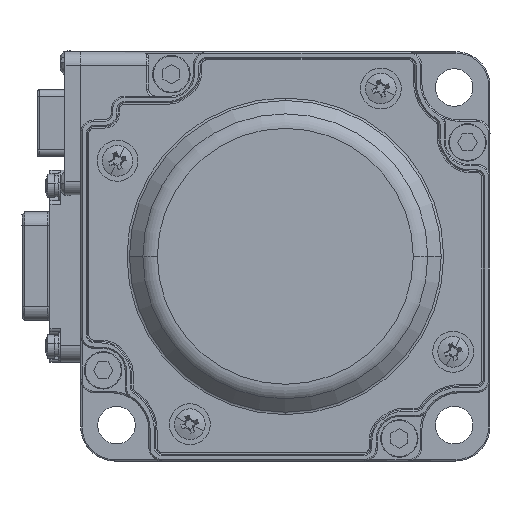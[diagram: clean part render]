
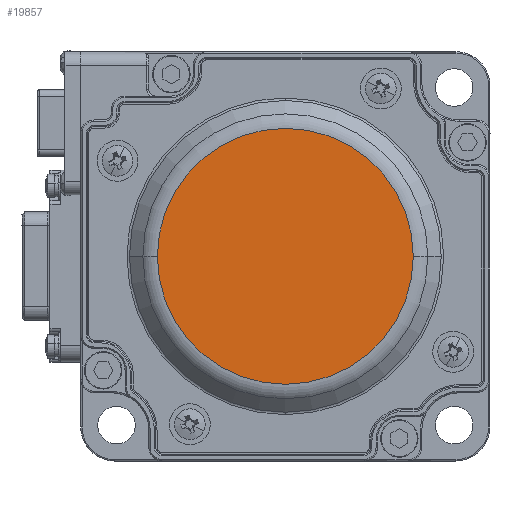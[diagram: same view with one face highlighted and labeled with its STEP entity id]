
A CAD part, left-side view. The second image highlights one B-rep face of the part: STEP entity #19857.
In plain terms, the highlighted planar face has unit normal (-1, 0, 0).
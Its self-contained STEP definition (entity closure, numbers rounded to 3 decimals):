
#668 = DIRECTION ( 'NONE',  ( -1., 0., 0. ) ) ;
#2427 = CARTESIAN_POINT ( 'NONE',  ( -117.051, -57.145, 157.079 ) ) ;
#2893 = DIRECTION ( 'NONE',  ( -1., 0., 0. ) ) ;
#3813 = CIRCLE ( 'NONE', #27198, 18.757 ) ;
#8007 = CARTESIAN_POINT ( 'NONE',  ( -117.051, -18.387, 157.079 ) ) ;
#11683 = DIRECTION ( 'NONE',  ( 1., 0., 0. ) ) ;
#14486 = AXIS2_PLACEMENT_3D ( 'NONE', #8007, #11683, #39129 ) ;
#16833 = VERTEX_POINT ( 'NONE', #32900 ) ;
#19857 = ADVANCED_FACE ( 'NONE', ( #27387 ), #35450, .F. ) ;
#24688 = CARTESIAN_POINT ( 'NONE',  ( -117.051, -38.387, 157.079 ) ) ;
#25807 = AXIS2_PLACEMENT_3D ( 'NONE', #24688, #668, #32563 ) ;
#27198 = AXIS2_PLACEMENT_3D ( 'NONE', #37727, #2893, #27461 ) ;
#27387 = FACE_OUTER_BOUND ( 'NONE', #29752, .T. ) ;
#27461 = DIRECTION ( 'NONE',  ( 0., 1., 0. ) ) ;
#29752 = EDGE_LOOP ( 'NONE', ( #41428, #47866 ) ) ;
#32563 = DIRECTION ( 'NONE',  ( 0., 1., 0. ) ) ;
#32900 = CARTESIAN_POINT ( 'NONE',  ( -117.051, -19.63, 157.079 ) ) ;
#35450 = PLANE ( 'NONE',  #14486 ) ;
#37512 = VERTEX_POINT ( 'NONE', #2427 ) ;
#37727 = CARTESIAN_POINT ( 'NONE',  ( -117.051, -38.387, 157.079 ) ) ;
#39129 = DIRECTION ( 'NONE',  ( 0., 1., 0. ) ) ;
#41428 = ORIENTED_EDGE ( 'NONE', *, *, #51559, .T. ) ;
#47866 = ORIENTED_EDGE ( 'NONE', *, *, #48718, .T. ) ;
#48282 = CIRCLE ( 'NONE', #25807, 18.757 ) ;
#48718 = EDGE_CURVE ( 'NONE', #37512, #16833, #48282, .T. ) ;
#51559 = EDGE_CURVE ( 'NONE', #16833, #37512, #3813, .T. ) ;
